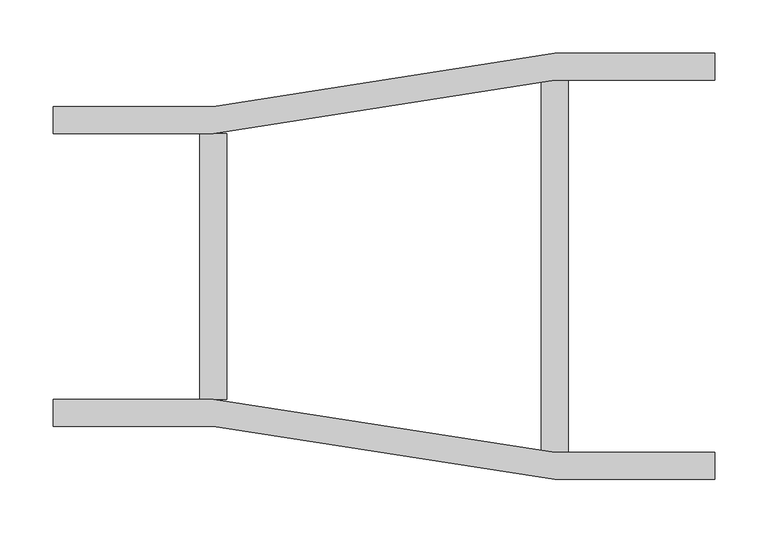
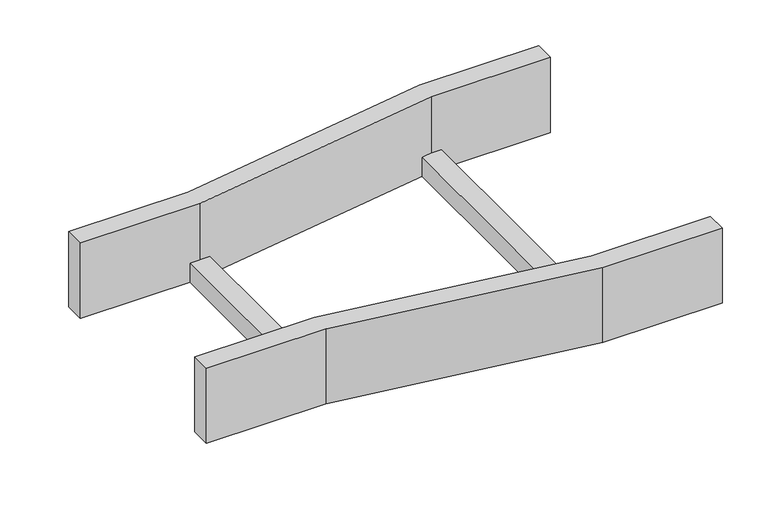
"""IFC4 building model written with IfcOpenShell, lengths in millimetres: cable carrier fitting geometry, BAKS_LDLS_RED_Straight reducer_RDS : R(S/L/P)DSC_H100."""

from ifc_helpers import new_model, si_unit, frame, origin, place, context, project, spatial, polyline, outline, extrude, source, transform, mapped, element, save


def cable_carrier_fitting_3c9c408d(model_context):
    return source(origin(), model_context, "Body", "SweptSolid", [
        extrude(outline(polyline([(0.0, -150.0), (0.0, -124.6), (150.0, -124.6), (470.0, -174.6), (620.0, -174.6), (620.0, -200.0), (470.0, -200.0), (150.0, -150.0), (0.0, -150.0)])), frame((0.0, 0.0, -50.0), z_axis=(0.0, 0.0, 1.0), x_axis=(1.0, 0.0, 0.0)), (0.0, 0.0, 1.0), 100.0),
        extrude(outline(polyline([(0.0, 124.6), (0.0, 150.0), (150.0, 150.0), (470.0, 200.0), (620.0, 200.0), (620.0, 174.6), (470.0, 174.6), (150.0, 124.6), (0.0, 124.6)])), frame((0.0, 0.0, -50.0), z_axis=(0.0, 0.0, 1.0), x_axis=(1.0, 0.0, 0.0)), (0.0, 0.0, 1.0), 100.0),
        extrude(outline(polyline([(457.3, 174.6), (482.7, 174.6), (482.7, -174.6), (457.3, -174.6), (457.3, 174.6)])), frame((0.0, 0.0, -50.0), z_axis=(0.0, 0.0, 1.0), x_axis=(1.0, 0.0, 0.0)), (0.0, 0.0, 1.0), 25.4),
        extrude(outline(polyline([(137.3, 124.6), (162.7, 124.6), (162.7, -124.6), (137.3, -124.6), (137.3, 124.6)])), frame((0.0, 0.0, -50.0), z_axis=(0.0, 0.0, 1.0), x_axis=(1.0, 0.0, 0.0)), (0.0, 0.0, 1.0), 25.4),
    ])


if __name__ == "__main__":
    model = new_model("IFC4")
    model_context = context("Model", 3, world=origin())
    ifc_project = project(units=[si_unit("LENGTHUNIT", "METRE", prefix="MILLI")], contexts=[model_context])
    site = spatial("IfcSite", under=ifc_project)
    building = spatial("IfcBuilding", under=site)
    placement = place(None, origin())
    cable_carrier_fitting_shape = cable_carrier_fitting_3c9c408d(model_context)
    element("IfcCableCarrierFitting", 1, ObjectType="BAKS_LDLS_RED_Straight reducer_RDS : R(S/L/P)DSC_H100", at=placement, inside=building, context=model_context, shape_type="MappedRepresentation", body=[
        mapped(cable_carrier_fitting_shape, transform((0.0, 0.0, 0.0), x_axis=(1.0, 0.0, 0.0), y_axis=(0.0, 1.0, 0.0), z_axis=(0.0, 0.0, 1.0))),
    ])
    save(model, "model.ifc")
